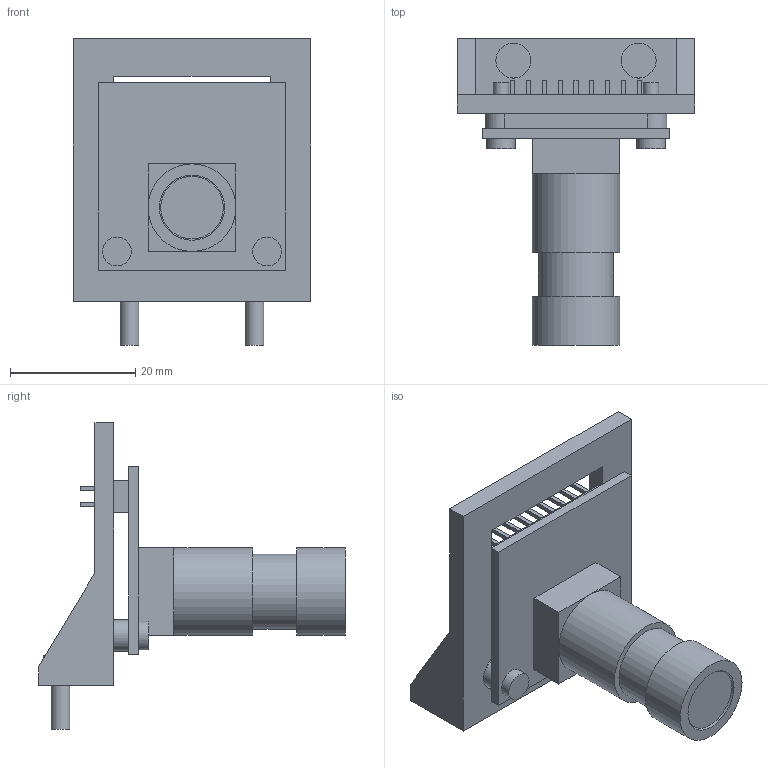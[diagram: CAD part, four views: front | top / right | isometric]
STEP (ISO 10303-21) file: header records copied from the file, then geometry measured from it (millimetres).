
FILE_DESCRIPTION(('FreeCAD Model'),'2;1');
FILE_NAME('Open CASCADE Shape Model','2026-10-15T23:35:51',('FreeCAD'),( 'FreeCAD'),'Open CASCADE STEP processor 7.8','FreeCAD','Unknown');
FILE_SCHEMA(('AUTOMOTIVE_DESIGN { 1 0 10303 214 1 1 1 1 }'));
Length unit declared in the file: millimetre
Products named in the file (1): Open CASCADE STEP translator 7.8 3
Bounding box: 38 x 49 x 49 mm (x, y, z)
Volume: 12476.1 mm3; surface area: 10081.8 mm2
Topology: 29 solids, 29 shells, 196 faces, 386 edges, 255 vertices
Faces by surface type: plane 171, cylinder 25
Full cylindrical faces by diameter (mm): 2.5 x2, 2.8 x2, 3 x2, 3.2 x2, 3.4 x2, 4.6 x2, 5 x2, 5.6 x2, 10 x1, 10.4 x1, 12 x1, 14 x2
Entity records: 4957 total; most frequent: CARTESIAN_POINT 838, DIRECTION 833, ORIENTED_EDGE 772, EDGE_CURVE 386, LINE 333, VECTOR 333, VERTEX_POINT 255, AXIS2_PLACEMENT_3D 250
